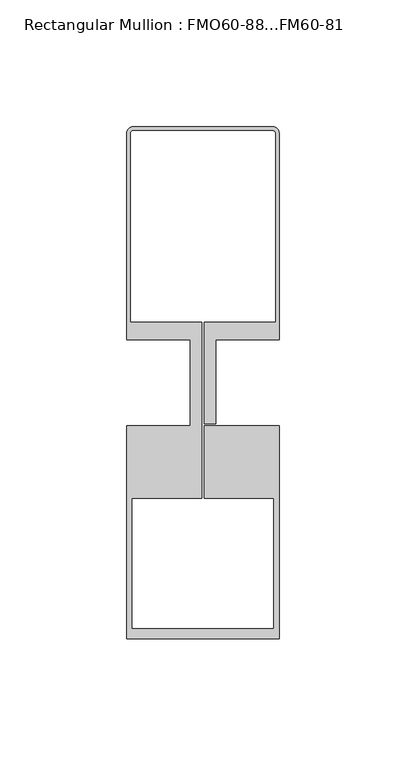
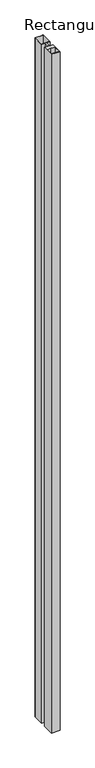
"""IFC4 building model written with IfcOpenShell, lengths in millimetres: member geometry, Rectangular Mullion : FMO60-88...FM60-81."""

from ifc_helpers import new_model, si_unit, point, frame, frame_2d, origin, place, context, project, spatial, polyline, circle_curve, trimmed, segment, composite_curve, outline, extrude, source, transform, mapped, element, save


def rectangular_mullion_fmo60_88_fm60_81_48d1233b(model_context):
    return source(origin(), model_context, "Body", "SweptSolid", [
        extrude(outline(composite_curve([segment(polyline([(-27.6, 100.8477977), (27.6, 100.8477977)]), True, "CONTINUOUS"), segment(trimmed(circle_curve(frame_2d((27.6, 98.4477977)), 2.4), [point((27.6, 100.8477977))], [point((30.0, 98.4477977))], False, "CARTESIAN"), True, "CONTINUOUS"), segment(polyline([(30.0, 98.4477977), (30.0, 17.0), (5.0, 17.0), (5.0, -16.2), (0.5, -16.2), (0.5, 23.8476589), (28.6, 23.8476589), (28.6, 98.4477977)]), True, "CONTINUOUS"), segment(trimmed(circle_curve(frame_2d((27.6, 98.4477977)), 1.0), [point((28.6, 98.4477977))], [point((27.6, 99.4477977))], True, "CARTESIAN"), True, "CONTINUOUS"), segment(polyline([(27.6, 99.4477977), (-27.5999999, 99.4477977)]), True, "CONTINUOUS"), segment(trimmed(circle_curve(frame_2d((-27.5999999, 98.4477976)), 1.0000001), [point((-27.5999999, 99.4477977))], [point((-28.6, 98.4477976))], True, "CARTESIAN"), True, "CONTINUOUS"), segment(polyline([(-28.6, 98.4477976), (-28.6, 23.8476589), (-0.5, 23.8476589), (-0.5, -45.5034642), (-28.0, -45.5034642), (-28.0, -97.009342), (28.0, -97.009342), (28.0, -45.5034642), (0.5, -45.5034642), (0.5, -17.0), (30.0, -17.0), (30.0, -101.009342), (-30.0, -101.009342), (-30.0, -17.0), (-5.0, -17.0), (-5.0, 17.0), (-30.0, 17.0), (-30.0, 98.4477977)]), True, "CONTINUOUS"), segment(trimmed(circle_curve(frame_2d((-27.6, 98.4477977)), 2.4), [point((-30.0, 98.4477977))], [point((-27.6, 100.8477977))], False, "CARTESIAN"), True, "CONTINUOUS")], self_intersect=False)), frame((0.0, 0.0, -5000.0), z_axis=(0.0, 0.0, 1.0), x_axis=(1.0, 0.0, 0.0)), (0.0, 0.0, 1.0), 5000.0),
    ])


if __name__ == "__main__":
    model = new_model("IFC4")
    model_context = context("Model", 3, world=origin())
    ifc_project = project(units=[si_unit("LENGTHUNIT", "METRE", prefix="MILLI")], contexts=[model_context])
    site = spatial("IfcSite", under=ifc_project)
    building = spatial("IfcBuilding", under=site)
    placement = place(None, origin())
    rectangular_mullion_fmo60_88_fm60_81_shape = rectangular_mullion_fmo60_88_fm60_81_48d1233b(model_context)
    element("IfcMember", 1, ObjectType="Rectangular Mullion : FMO60-88...FM60-81", at=placement, inside=building, context=model_context, shape_type="MappedRepresentation", body=[
        mapped(rectangular_mullion_fmo60_88_fm60_81_shape, transform((0.0, 0.0, 0.0), x_axis=(1.0, 0.0, 0.0), y_axis=(0.0, 1.0, 0.0), z_axis=(0.0, 0.0, 1.0))),
    ])
    save(model, "model.ifc")
